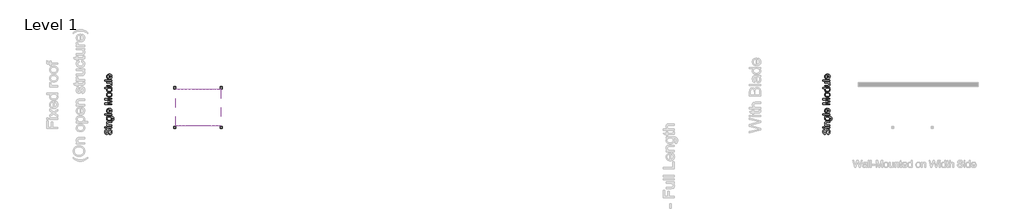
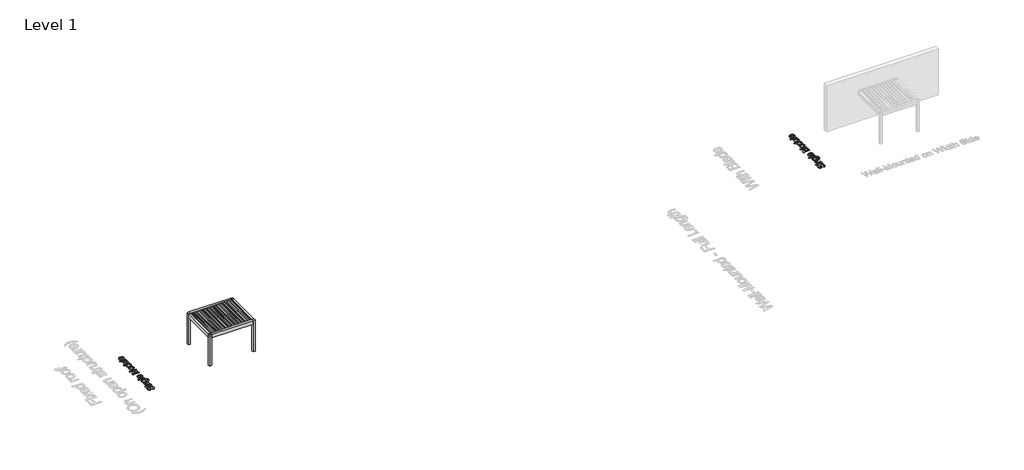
# One storey, part 55 of 80: 4 proxies.
"""IFC4 building model written with IfcOpenShell, lengths in millimetres."""

from ifc_helpers import new_model, si_unit, origin, origin_with_axes, place, context, project, spatial, polyline, outline, extrude, transform, mapped, element, save
from components import generic_models_098ad460, generic_models_9605c008

model = new_model("IFC4")

# Units and contexts
model_context = context("Model", 3, world=origin())
ifc_project = project(units=[si_unit("LENGTHUNIT", "METRE", prefix="MILLI")], contexts=[model_context])

# Site, building, storey
site = spatial("IfcSite", under=ifc_project)
building = spatial("IfcBuilding", under=site)
storey = spatial("IfcBuildingStorey", under=building, Name="Level 1", Elevation=0.0)

# Proxies
placement = place(None, origin())
generic_models_shape = generic_models_098ad460(model_context)
element("IfcBuildingElementProxy", 1, Name="Renson_Amani_Fixed_Roof : Renson_Amani_Fixed_Roof", ObjectType="Renson_Amani_Fixed_Roof : Renson_Amani_Fixed_Roof", at=placement, inside=storey, context=model_context, shape_type="MappedRepresentation", body=[
    mapped(generic_models_shape, transform((79003.165057, 66208.5861401, 0.0), x_axis=(1.0, 0.0, 0.0), y_axis=(0.0, 1.0, 0.0), z_axis=(0.0, 0.0, 1.0))),
])
generic_models_2_shape = generic_models_9605c008(model_context)
element("IfcBuildingElementProxy", 2, Name="Renson_Amani_Patio_Cover : Renson_Amani_Patio_Cover", ObjectType="Renson_Amani_Patio_Cover : Renson_Amani_Patio_Cover", at=placement, inside=storey, context=model_context, shape_type="MappedRepresentation", body=[
    mapped(generic_models_2_shape, transform((80603.165057, 67528.5861401, 0.0), x_axis=(1.0, 0.0, 0.0), y_axis=(0.0, 1.0, 0.0), z_axis=(0.0, 0.0, 1.0))),
])
element("IfcBuildingElementProxy", 3, Name="500mm Arial", ObjectType="500mm Arial", at=placement, inside=storey, context=model_context, shape_type="SweptSolid", body=[
    extrude(outline(polyline([(74240.3333758, 65583.2954326), (74240.3333758, 65646.0806264), (74275.1748664, 65653.2849821), (74303.1798833, 65666.3141361), (74325.4060871, 65686.6396164), (74342.9111388, 65715.7329508), (74354.2694954, 65751.294877), (74358.0556142, 65791.0261325), (74355.1892003, 65826.0055789), (74346.5899587, 65856.631755), (74332.9783249, 65881.4484612), (74315.0747345, 65898.9994981), (74294.519328, 65909.4381497), (74272.952246, 65912.9177002), (74251.936987, 65910.3118694), (74233.7728135, 65902.494377), (74218.2757845, 65886.6141376), (74205.2619589, 65859.8200656), (74181.2883155, 65768.4013898), (74165.4234045, 65708.3906393), (74150.3249143, 65669.9929561), (74129.2023564, 65638.7383149), (74103.6039009, 65616.5887531), (74074.0813708, 65603.3909866), (74041.186589, 65598.991731), (74004.4137179, 65604.4333189), (73970.1240503, 65620.7580824), (73954.5963644, 65632.8943561), (73941.0613727, 65647.536826), (73919.9694716, 65684.3403539), (73907.139587, 65728.5168502), (73902.8629589, 65777.4144987), (73907.3388565, 65830.389506), (73920.7665493, 65876.7426374), (73942.8701258, 65914.8184239), (73957.0719037, 65930.1315119), (73973.3736746, 65942.9613965), (74010.3764719, 65960.7730165), (74051.9777942, 65967.8547449), (74051.9777942, 65905.069551), (74031.9435539, 65900.8695649), (74014.5151444, 65893.5425818), (73999.6925657, 65883.0886018), (73987.4758177, 65869.5076248), (73977.9262143, 65852.546732), (73971.105069, 65831.9530045), (73965.6481527, 65779.8670453), (73971.0437553, 65726.5548129), (73977.7882585, 65706.1756832), (73987.2305631, 65689.9812112), (73998.5812555, 65677.6418359), (74011.0509223, 65668.8279964), (74024.6395635, 65663.5396928), (74039.3471791, 65661.7769249), (74063.4741066, 65666.7739886), (74082.8798818, 65681.7651799), (74091.5097803, 65695.5300979), (74100.2316493, 65717.2044788), (74117.9512987, 65784.2816293), (74134.7819, 65853.504758), (74149.466523, 65895.3819918), (74172.2445498, 65931.1738443), (74200.3568656, 65956.1438347), (74233.496902, 65970.8131292), (74271.3580907, 65975.7028941), (74310.0623423, 65970.0773652), (74346.4673314, 65953.2007787), (74377.7986146, 65925.7629132), (74401.2817487, 65888.4535476), (74415.9510432, 65843.5872726), (74420.8408081, 65793.4786791), (74415.5678328, 65731.9657439), (74408.9766137, 65705.2904671), (74399.748907, 65681.3359843), (74387.8693842, 65659.9566754), (74373.322717, 65641.0069206), (74356.1089053, 65624.4867197), (74336.2279492, 65610.3960729), (74314.323642, 65599.0453805), (74291.0397774, 65590.745043), (74266.3763553, 65585.4950603), (74240.3333758, 65583.2954326)])), origin_with_axes(), (0.0, 0.0, 1.0), 5.0),
    extrude(outline(polyline([(74412.9926588, 66062.0325356), (74044.129645, 66062.0325356), (74044.129645, 66124.8177295), (74412.9926588, 66124.8177295), (74412.9926588, 66062.0325356)])), origin_with_axes(), (0.0, 0.0, 1.0), 5.0),
    extrude(outline(polyline([(73973.4963019, 66062.0325356), (73910.7111081, 66062.0325356), (73910.7111081, 66124.8177295), (73973.4963019, 66124.8177295), (73973.4963019, 66062.0325356)])), origin_with_axes(), (0.0, 0.0, 1.0), 5.0),
    extrude(outline(polyline([(74412.9926588, 66218.9955202), (74044.129645, 66218.9955202), (74044.129645, 66281.7807141), (74095.6331243, 66281.7807141), (74069.6667868, 66303.5930507), (74051.1194029, 66329.7893144), (74039.9909726, 66360.3695053), (74036.2814958, 66395.3336233), (74039.270537, 66426.2816961), (74048.2376606, 66454.6239381), (74062.0638923, 66478.2603563), (74079.6302575, 66495.0909576), (74100.8907712, 66506.5106279), (74125.7994479, 66513.914253), (74186.4999771, 66517.225191), (74412.9926588, 66517.225191), (74412.9926588, 66454.4399971), (74194.961263, 66454.4399971), (74162.495677, 66452.631244), (74139.4110818, 66447.2049846), (74122.8717204, 66437.1955286), (74110.0418358, 66421.6371859), (74101.8104762, 66401.6949161), (74099.0666896, 66378.5336788), (74100.6071955, 66359.4689608), (74105.228713, 66341.7608077), (74112.9312423, 66325.4092194), (74123.7147833, 66310.414196), (74138.8056093, 66297.8870477), (74159.4299937, 66288.9390846), (74185.5879364, 66283.5703067), (74217.2794374, 66281.7807141), (74412.9926588, 66281.7807141), (74412.9926588, 66218.9955202)])), origin_with_axes(), (0.0, 0.0, 1.0), 5.0),
    extrude(outline(polyline([(74444.3852558, 66587.8585341), (74452.233405, 66650.6437279), (74471.8537781, 66657.5721721), (74485.3427846, 66670.999865), (74495.8274214, 66697.3953981), (74499.3223004, 66731.9456488), (74495.3675689, 66768.795162), (74483.5033746, 66796.2023707), (74464.4961382, 66815.2096071), (74439.1122805, 66826.8592036), (74412.1036107, 66830.2621121), (74365.9037635, 66831.1511602), (74386.5051552, 66810.2585286), (74401.220435, 66786.9440071), (74410.0496029, 66761.2075959), (74412.9926588, 66733.0492948), (74409.5667578, 66698.6255035), (74399.2890545, 66668.3173921), (74382.1595491, 66642.1249605), (74358.1782416, 66620.0482086), (74329.4068038, 66602.5316607), (74297.906908, 66590.0198408), (74263.678554, 66582.5127488), (74226.7217419, 66580.0103848), (74176.0306687, 66584.5016109), (74129.4169542, 66597.9752889), (74089.915625, 66619.9562381), (74073.9702398, 66633.9587466), (74060.5617075, 66649.9692776), (74049.9391148, 66667.7310802), (74042.3515487, 66686.9874033), (74037.799009, 66707.7382471), (74036.2814958, 66729.9836115), (74039.7150611, 66759.3451933), (74050.0157569, 66785.9936453), (74067.1835834, 66809.9289676), (74091.2185404, 66831.1511602), (74044.129645, 66831.1511602), (74044.129645, 66893.936354), (74362.5928255, 66893.936354), (74436.1232393, 66889.6443974), (74463.4729664, 66884.2794517), (74484.5457069, 66876.7685276), (74516.6587394, 66854.588309), (74541.2608478, 66822.383306), (74550.3812556, 66802.6977871), (74556.8958326, 66780.8586258), (74562.1074942, 66730.7193755), (74560.2719163, 66699.9590758), (74554.7651827, 66672.3027804), (74545.5872934, 66647.7504893), (74532.7382483, 66626.3022026), (74516.202719, 66608.9772598), (74495.9653772, 66596.7950009), (74472.0262227, 66589.7554256), (74444.3852558, 66587.8585341)]), holes=[polyline([(74222.4297853, 66642.7955787), (74253.4736608, 66644.4702082), (74280.018646, 66649.4940967), (74302.064741, 66657.8672442), (74319.6119457, 66669.5896507), (74332.9974854, 66683.8412459), (74342.5585852, 66699.8019595), (74348.295245, 66717.4717916), (74350.207465, 66736.8507421), (74348.3067413, 66756.0380874), (74342.6045704, 66773.6236132), (74333.1009522, 66789.6073195), (74319.7958867, 66803.9892062), (74302.4211267, 66815.8725611), (74280.7084247, 66824.3606717), (74254.657781, 66829.4535381), (74224.2691953, 66831.1511602), (74195.1490361, 66829.4037207), (74169.8379884, 66824.1614023), (74148.3360522, 66815.4242049), (74130.6432275, 66803.1921286), (74116.8284922, 66788.4998414), (74106.9608241, 66772.3820115), (74101.0402232, 66754.8386388), (74099.0666896, 66735.8697235), (74101.0095664, 66717.2188727), (74106.8381968, 66700.0165573), (74116.5525807, 66684.2627773), (74130.1527182, 66669.9575327), (74147.5772956, 66658.0741778), (74168.7649993, 66649.5860672), (74193.7158292, 66644.4932008), (74222.4297853, 66642.7955787)])]), origin_with_axes(), (0.0, 0.0, 1.0), 5.0),
    extrude(outline(polyline([(74412.9926588, 66988.1141448), (73910.7111081, 66988.1141448), (73910.7111081, 67050.8993387), (74412.9926588, 67050.8993387), (74412.9926588, 66988.1141448)])), origin_with_axes(), (0.0, 0.0, 1.0), 5.0),
    extrude(outline(polyline([(74303.1185696, 67403.33029), (74310.9667188, 67464.8892106), (74335.6224767, 67455.4507381), (74357.3505071, 67442.7089919), (74376.1508099, 67426.663972), (74392.0233851, 67407.3156783), (74404.6310077, 67384.8633803), (74413.6364523, 67359.5063474), (74419.0397191, 67331.2445795), (74420.8408081, 67300.0780767), (74417.7329716, 67261.1209063), (74408.4094623, 67226.4097072), (74392.8702801, 67195.9444795), (74371.115425, 67169.7252231), (74343.7503696, 67148.6409863), (74311.3805861, 67133.5808171), (74274.0060746, 67124.5447156), (74231.6268352, 67121.5326817), (74187.8105567, 67124.5753724), (74149.1906115, 67133.7034444), (74115.7669994, 67148.9168977), (74087.5397204, 67170.2157324), (74065.1142471, 67196.3660109), (74049.0960519, 67226.1337957), (74039.4851348, 67259.5190868), (74036.2814958, 67296.5218841), (74039.4774706, 67332.3328971), (74049.0653951, 67364.718009), (74065.0452693, 67393.6772198), (74087.4170931, 67419.2105295), (74115.5830584, 67440.0533438), (74148.9453568, 67454.9410683), (74187.5039884, 67463.873703), (74231.2589532, 67466.8512479), (74248.181525, 67466.4833659), (74248.181525, 67184.3178756), (74273.2358217, 67187.9545424), (74295.1784499, 67195.1857229), (74314.0094095, 67206.011417), (74329.7287006, 67220.4316248), (74342.1217253, 67237.6492686), (74350.9738858, 67256.8672707), (74356.2851821, 67278.0856312), (74358.0556142, 67301.30435), (74354.7753331, 67334.7202979), (74344.9344897, 67362.8632706), (74327.9199474, 67385.7332679), (74303.1185696, 67403.33029)]), holes=[polyline([(74185.3963312, 67184.3178756), (74185.3963312, 67404.066054), (74152.2256379, 67395.5741113), (74128.4972492, 67378.927451), (74115.6213794, 67361.8056098), (74106.4243295, 67342.3231925), (74100.9060996, 67320.480199), (74099.0666896, 67296.2766294), (74104.9374731, 67253.9548716), (74112.2759525, 67235.5416113), (74122.5498236, 67218.9600968), (74135.2839056, 67205.0457267), (74150.0030175, 67194.6338999), (74166.7071594, 67187.7246161), (74185.3963312, 67184.3178756)])]), origin_with_axes(), (0.0, 0.0, 1.0), 5.0),
    extrude(outline(polyline([(74412.9926588, 67733.6883217), (73910.7111081, 67733.6883217), (73910.7111081, 67841.723001), (74264.7362148, 67944.4847049), (74338.6804958, 67965.208724), (74258.6048482, 67987.6495257), (73910.7111081, 68088.6944471), (73910.7111081, 68196.7291263), (74412.9926588, 68196.7291263), (74412.9926588, 68133.9439325), (73973.4963019, 68133.9439325), (74412.9926588, 68007.7604081), (74412.9926588, 67922.6570399), (73973.4963019, 67796.4735156), (74412.9926588, 67796.4735156), (74412.9926588, 67733.6883217)])), origin_with_axes(), (0.0, 0.0, 1.0), 5.0),
    extrude(outline(polyline([(74228.5611519, 68283.0587678), (74180.790142, 68286.4540121), (74139.6256796, 68296.6397448), (74105.0677647, 68313.6159661), (74077.1163972, 68337.3826758), (74059.2511278, 68361.3103339), (74046.4902211, 68387.7211955), (74038.8336771, 68416.6152605), (74036.2814958, 68447.992529), (74039.3893322, 68482.6309181), (74048.7128415, 68513.9507051), (74064.2520237, 68541.9518898), (74086.0068788, 68566.6344725), (74113.2416427, 68586.7798438), (74145.2205516, 68601.1693948), (74181.9436053, 68609.8031253), (74223.410804, 68612.6810355), (74286.8397913, 68607.5920012), (74312.8751067, 68601.2307084), (74335.1243032, 68592.3248984), (74354.3423053, 68580.9857024), (74371.2840376, 68567.3242512), (74385.9495001, 68551.3405449), (74398.3386927, 68533.0345836), (74415.2152792, 68492.306981), (74420.8408081, 68447.992529), (74417.7444679, 68412.8483022), (74408.4554476, 68381.2372753), (74392.9737469, 68353.1594484), (74371.299366, 68328.6148216), (74343.8001869, 68308.6840481), (74310.8440915, 68294.4477813), (74272.4310798, 68285.9060212), (74228.5611519, 68283.0587678)]), holes=[polyline([(74228.4385246, 68345.8439617), (74258.892256, 68347.660379), (74285.2609644, 68353.1096311), (74307.5446499, 68362.1917178), (74325.7433123, 68374.9066393), (74339.8799444, 68390.3730115), (74349.9775387, 68407.7094505), (74356.0360954, 68426.9159564), (74358.0556142, 68447.992529), (74356.024599, 68468.9618027), (74349.9315535, 68488.0916665), (74339.7764776, 68505.3821203), (74325.5593713, 68520.8331641), (74307.1806, 68533.5480855), (74284.5405289, 68542.6301723), (74257.639158, 68548.0794243), (74226.4764873, 68549.8958417), (74196.9884461, 68548.067928), (74171.3095164, 68542.584187), (74149.4396982, 68533.4446187), (74131.3789915, 68520.6492231), (74117.2423594, 68505.1406977), (74107.1447651, 68487.8617402), (74101.0862085, 68468.8123507), (74099.0666896, 68447.992529), (74101.0785443, 68426.9159564), (74107.1141083, 68407.7094505), (74117.1733816, 68390.3730115), (74131.2563642, 68374.9066393), (74149.4013772, 68362.1917178), (74171.6467416, 68353.1096311), (74197.9924574, 68347.660379), (74228.4385246, 68345.8439617)])]), origin_with_axes(), (0.0, 0.0, 1.0), 5.0),
    extrude(outline(polyline([(74412.9926588, 68910.9107063), (74353.7636576, 68910.9107063), (74383.1099109, 68892.1257319), (74404.0715205, 68869.3706977), (74416.6484862, 68842.6456035), (74420.8408081, 68811.9504496), (74414.7707551, 68771.3608028), (74396.5605964, 68734.2047213), (74367.4825903, 68702.7508107), (74328.8089956, 68679.2676766), (74282.1033106, 68664.6443673), (74228.9290339, 68659.7699309), (74176.4138791, 68664.2611569), (74128.9877586, 68677.734835), (74107.8575365, 68687.8362614), (74089.3484736, 68700.1756367), (74073.4605699, 68714.7529608), (74060.1938255, 68731.5682336), (74042.2595782, 68769.5367212), (74036.2814958, 68811.7051949), (74040.558124, 68842.4233415), (74053.3880085, 68869.5852955), (74073.0543669, 68892.608577), (74097.8404163, 68910.9107063), (73910.7111081, 68910.9107063), (73910.7111081, 68973.6959001), (74412.9926588, 68973.6959001), (74412.9926588, 68910.9107063)]), holes=[polyline([(74228.6837793, 68722.5551247), (74259.1298465, 68724.3255568), (74285.4755623, 68729.6368531), (74307.7209267, 68738.4890137), (74325.8659396, 68750.8820384), (74339.9489223, 68765.6816245), (74350.0081956, 68781.7534691), (74356.0437596, 68799.0975724), (74358.0556142, 68817.7139342), (74356.1357301, 68836.4184344), (74350.3760776, 68853.6590708), (74340.7766568, 68869.4358434), (74327.3374676, 68883.7487523), (74309.9512112, 68895.6321072), (74288.5105887, 68904.1202178), (74263.0156, 68909.2130841), (74233.4662452, 68910.9107063), (74201.069637, 68909.1824273), (74173.2868821, 68903.9975904), (74150.1179807, 68895.3561957), (74131.5629325, 68883.258243), (74117.3458263, 68868.6311016), (74107.1907503, 68852.4021406), (74101.0977048, 68834.5713602), (74099.0666896, 68815.1387602), (74101.0172306, 68796.1545164), (74106.8688536, 68778.8104132), (74116.6215586, 68763.1064505), (74130.2753455, 68749.0426284), (74148.1291186, 68737.4543455), (74170.4817819, 68729.1770007), (74197.3333355, 68724.2105937), (74228.6837793, 68722.5551247)])]), origin_with_axes(), (0.0, 0.0, 1.0), 5.0),
    extrude(outline(polyline([(74412.9926588, 69303.3181678), (74349.5943283, 69303.3181678), (74380.7646632, 69280.6014546), (74403.0291881, 69254.1446078), (74416.3879031, 69223.9476273), (74420.8408081, 69190.0105133), (74417.7138111, 69159.4303224), (74408.3328202, 69130.9654531), (74394.2306771, 69107.0837802), (74376.9402233, 69090.2531789), (74355.9402927, 69078.9254792), (74330.7097192, 69071.5525108), (74272.3391093, 69067.8736909), (74044.129645, 69067.8736909), (74044.129645, 69130.6588847), (74242.7859224, 69130.6588847), (74306.7973896, 69134.460332), (74328.1498737, 69143.6113966), (74344.3826667, 69159.2923667), (74354.6373773, 69180.4609098), (74358.0556142, 69206.0746937), (74354.5607353, 69233.1600056), (74344.0760984, 69258.497878), (74327.5673939, 69279.3905097), (74306.0003119, 69293.1400993), (74276.4624534, 69300.7736507), (74236.0414192, 69303.3181678), (74044.129645, 69303.3181678), (74044.129645, 69366.1033616), (74412.9926588, 69366.1033616), (74412.9926588, 69303.3181678)])), origin_with_axes(), (0.0, 0.0, 1.0), 5.0),
    extrude(outline(polyline([(74412.9926588, 69452.4330032), (73910.7111081, 69452.4330032), (73910.7111081, 69515.218197), (74412.9926588, 69515.218197), (74412.9926588, 69452.4330032)])), origin_with_axes(), (0.0, 0.0, 1.0), 5.0),
    extrude(outline(polyline([(74303.1185696, 69867.6491484), (74310.9667188, 69929.2080689), (74335.6224767, 69919.7695965), (74357.3505071, 69907.0278503), (74376.1508099, 69890.9828304), (74392.0233851, 69871.6345367), (74404.6310077, 69849.1822387), (74413.6364523, 69823.8252057), (74419.0397191, 69795.5634379), (74420.8408081, 69764.3969351), (74417.7329716, 69725.4397646), (74408.4094623, 69690.7285655), (74392.8702801, 69660.2633378), (74371.115425, 69634.0440815), (74343.7503696, 69612.9598446), (74311.3805861, 69597.8996754), (74274.0060746, 69588.8635739), (74231.6268352, 69585.8515401), (74187.8105567, 69588.8942308), (74149.1906115, 69598.0223028), (74115.7669994, 69613.2357561), (74087.5397204, 69634.5345908), (74065.1142471, 69660.6848693), (74049.0960519, 69690.4526541), (74039.4851348, 69723.8379451), (74036.2814958, 69760.8407425), (74039.4774706, 69796.6517554), (74049.0653951, 69829.0368673), (74065.0452693, 69857.9960781), (74087.4170931, 69883.5293879), (74115.5830584, 69904.3722021), (74148.9453568, 69919.2599266), (74187.5039884, 69928.1925613), (74231.2589532, 69931.1701062), (74248.181525, 69930.8022242), (74248.181525, 69648.6367339), (74273.2358217, 69652.2734007), (74295.1784499, 69659.5045812), (74314.0094095, 69670.3302753), (74329.7287006, 69684.7504831), (74342.1217253, 69701.9681269), (74350.9738858, 69721.1861291), (74356.2851821, 69742.4044896), (74358.0556142, 69765.6232084), (74354.7753331, 69799.0391563), (74344.9344897, 69827.1821289), (74327.9199474, 69850.0521263), (74303.1185696, 69867.6491484)]), holes=[polyline([(74185.3963312, 69648.6367339), (74185.3963312, 69868.3849124), (74152.2256379, 69859.8929697), (74128.4972492, 69843.2463094), (74115.6213794, 69826.1244682), (74106.4243295, 69806.6420509), (74100.9060996, 69784.7990574), (74099.0666896, 69760.5954878), (74104.9374731, 69718.2737299), (74112.2759525, 69699.8604697), (74122.5498236, 69683.2789551), (74135.2839056, 69669.3645851), (74150.0030175, 69658.9527582), (74166.7071594, 69652.0434745), (74185.3963312, 69648.6367339)])]), origin_with_axes(), (0.0, 0.0, 1.0), 5.0),
])
element("IfcBuildingElementProxy", 4, Name="500mm Arial", ObjectType="500mm Arial", at=placement, inside=storey, context=model_context, shape_type="SweptSolid", body=[
    extrude(outline(polyline([(125840.3333758, 65583.2954326), (125840.3333758, 65646.0806264), (125875.1748664, 65653.2849821), (125903.1798833, 65666.3141361), (125925.4060871, 65686.6396164), (125942.9111388, 65715.7329508), (125954.2694954, 65751.294877), (125958.0556142, 65791.0261325), (125955.1892003, 65826.0055789), (125946.5899587, 65856.631755), (125932.9783249, 65881.4484612), (125915.0747345, 65898.9994981), (125894.519328, 65909.4381497), (125872.952246, 65912.9177002), (125851.936987, 65910.3118694), (125833.7728135, 65902.494377), (125818.2757845, 65886.6141376), (125805.2619589, 65859.8200656), (125781.2883155, 65768.4013898), (125765.4234045, 65708.3906393), (125750.3249143, 65669.9929561), (125729.2023564, 65638.7383149), (125703.6039009, 65616.5887531), (125674.0813708, 65603.3909866), (125641.186589, 65598.991731), (125604.4137179, 65604.4333189), (125570.1240503, 65620.7580824), (125554.5963644, 65632.8943561), (125541.0613727, 65647.536826), (125519.9694716, 65684.3403539), (125507.139587, 65728.5168502), (125502.8629589, 65777.4144987), (125507.3388565, 65830.389506), (125520.7665493, 65876.7426374), (125542.8701258, 65914.8184239), (125557.0719037, 65930.1315119), (125573.3736746, 65942.9613965), (125610.3764719, 65960.7730165), (125651.9777942, 65967.8547449), (125651.9777942, 65905.069551), (125631.9435539, 65900.8695649), (125614.5151444, 65893.5425818), (125599.6925657, 65883.0886018), (125587.4758177, 65869.5076248), (125577.9262143, 65852.546732), (125571.105069, 65831.9530045), (125565.6481527, 65779.8670453), (125571.0437553, 65726.5548129), (125577.7882585, 65706.1756832), (125587.2305631, 65689.9812112), (125598.5812555, 65677.6418359), (125611.0509223, 65668.8279964), (125624.6395635, 65663.5396928), (125639.3471791, 65661.7769249), (125663.4741066, 65666.7739886), (125682.8798818, 65681.7651799), (125691.5097803, 65695.5300979), (125700.2316493, 65717.2044788), (125717.9512987, 65784.2816293), (125734.7819, 65853.504758), (125749.466523, 65895.3819918), (125772.2445498, 65931.1738443), (125800.3568656, 65956.1438347), (125833.496902, 65970.8131292), (125871.3580907, 65975.7028941), (125910.0623423, 65970.0773652), (125946.4673314, 65953.2007787), (125977.7986146, 65925.7629132), (126001.2817487, 65888.4535476), (126015.9510432, 65843.5872726), (126020.8408081, 65793.4786791), (126015.5678328, 65731.9657439), (126008.9766137, 65705.2904671), (125999.748907, 65681.3359843), (125987.8693842, 65659.9566754), (125973.322717, 65641.0069206), (125956.1089053, 65624.4867197), (125936.2279492, 65610.3960729), (125914.323642, 65599.0453805), (125891.0397774, 65590.745043), (125866.3763553, 65585.4950603), (125840.3333758, 65583.2954326)])), origin_with_axes(), (0.0, 0.0, 1.0), 5.0),
    extrude(outline(polyline([(126012.9926588, 66062.0325356), (125644.129645, 66062.0325356), (125644.129645, 66124.8177295), (126012.9926588, 66124.8177295), (126012.9926588, 66062.0325356)])), origin_with_axes(), (0.0, 0.0, 1.0), 5.0),
    extrude(outline(polyline([(125573.4963019, 66062.0325356), (125510.7111081, 66062.0325356), (125510.7111081, 66124.8177295), (125573.4963019, 66124.8177295), (125573.4963019, 66062.0325356)])), origin_with_axes(), (0.0, 0.0, 1.0), 5.0),
    extrude(outline(polyline([(126012.9926588, 66218.9955202), (125644.129645, 66218.9955202), (125644.129645, 66281.7807141), (125695.6331243, 66281.7807141), (125669.6667868, 66303.5930507), (125651.1194029, 66329.7893144), (125639.9909726, 66360.3695053), (125636.2814958, 66395.3336233), (125639.270537, 66426.2816961), (125648.2376606, 66454.6239381), (125662.0638923, 66478.2603563), (125679.6302575, 66495.0909576), (125700.8907712, 66506.5106279), (125725.7994479, 66513.914253), (125786.4999771, 66517.225191), (126012.9926588, 66517.225191), (126012.9926588, 66454.4399971), (125794.961263, 66454.4399971), (125762.495677, 66452.631244), (125739.4110818, 66447.2049846), (125722.8717204, 66437.1955286), (125710.0418358, 66421.6371859), (125701.8104762, 66401.6949161), (125699.0666896, 66378.5336788), (125700.6071955, 66359.4689608), (125705.228713, 66341.7608077), (125712.9312423, 66325.4092194), (125723.7147833, 66310.414196), (125738.8056093, 66297.8870477), (125759.4299937, 66288.9390846), (125785.5879364, 66283.5703067), (125817.2794374, 66281.7807141), (126012.9926588, 66281.7807141), (126012.9926588, 66218.9955202)])), origin_with_axes(), (0.0, 0.0, 1.0), 5.0),
    extrude(outline(polyline([(126044.3852558, 66587.8585341), (126052.233405, 66650.6437279), (126071.8537781, 66657.5721721), (126085.3427846, 66670.999865), (126095.8274214, 66697.3953981), (126099.3223004, 66731.9456488), (126095.3675689, 66768.795162), (126083.5033746, 66796.2023707), (126064.4961382, 66815.2096071), (126039.1122805, 66826.8592036), (126012.1036107, 66830.2621121), (125965.9037635, 66831.1511602), (125986.5051552, 66810.2585286), (126001.220435, 66786.9440071), (126010.0496029, 66761.2075959), (126012.9926588, 66733.0492948), (126009.5667578, 66698.6255035), (125999.2890545, 66668.3173921), (125982.1595491, 66642.1249605), (125958.1782416, 66620.0482086), (125929.4068038, 66602.5316607), (125897.906908, 66590.0198408), (125863.678554, 66582.5127488), (125826.7217419, 66580.0103848), (125776.0306687, 66584.5016109), (125729.4169542, 66597.9752889), (125689.915625, 66619.9562381), (125673.9702398, 66633.9587466), (125660.5617075, 66649.9692776), (125649.9391148, 66667.7310802), (125642.3515487, 66686.9874033), (125637.799009, 66707.7382471), (125636.2814958, 66729.9836115), (125639.7150611, 66759.3451933), (125650.0157569, 66785.9936453), (125667.1835834, 66809.9289676), (125691.2185404, 66831.1511602), (125644.129645, 66831.1511602), (125644.129645, 66893.936354), (125962.5928255, 66893.936354), (126036.1232393, 66889.6443974), (126063.4729664, 66884.2794517), (126084.5457069, 66876.7685276), (126116.6587394, 66854.588309), (126141.2608478, 66822.383306), (126150.3812556, 66802.6977871), (126156.8958326, 66780.8586258), (126162.1074942, 66730.7193755), (126160.2719163, 66699.9590758), (126154.7651827, 66672.3027804), (126145.5872934, 66647.7504893), (126132.7382483, 66626.3022026), (126116.202719, 66608.9772598), (126095.9653772, 66596.7950009), (126072.0262227, 66589.7554256), (126044.3852558, 66587.8585341)]), holes=[polyline([(125822.4297853, 66642.7955787), (125853.4736608, 66644.4702082), (125880.018646, 66649.4940967), (125902.064741, 66657.8672442), (125919.6119457, 66669.5896507), (125932.9974854, 66683.8412459), (125942.5585852, 66699.8019595), (125948.295245, 66717.4717916), (125950.207465, 66736.8507421), (125948.3067413, 66756.0380874), (125942.6045704, 66773.6236132), (125933.1009522, 66789.6073195), (125919.7958867, 66803.9892062), (125902.4211267, 66815.8725611), (125880.7084247, 66824.3606717), (125854.657781, 66829.4535381), (125824.2691953, 66831.1511602), (125795.1490361, 66829.4037207), (125769.8379884, 66824.1614023), (125748.3360522, 66815.4242049), (125730.6432275, 66803.1921286), (125716.8284922, 66788.4998414), (125706.9608241, 66772.3820115), (125701.0402232, 66754.8386388), (125699.0666896, 66735.8697235), (125701.0095664, 66717.2188727), (125706.8381968, 66700.0165573), (125716.5525807, 66684.2627773), (125730.1527182, 66669.9575327), (125747.5772956, 66658.0741778), (125768.7649993, 66649.5860672), (125793.7158292, 66644.4932008), (125822.4297853, 66642.7955787)])]), origin_with_axes(), (0.0, 0.0, 1.0), 5.0),
    extrude(outline(polyline([(126012.9926588, 66988.1141448), (125510.7111081, 66988.1141448), (125510.7111081, 67050.8993387), (126012.9926588, 67050.8993387), (126012.9926588, 66988.1141448)])), origin_with_axes(), (0.0, 0.0, 1.0), 5.0),
    extrude(outline(polyline([(125903.1185696, 67403.33029), (125910.9667188, 67464.8892106), (125935.6224767, 67455.4507381), (125957.3505071, 67442.7089919), (125976.1508099, 67426.663972), (125992.0233851, 67407.3156783), (126004.6310077, 67384.8633803), (126013.6364523, 67359.5063474), (126019.0397191, 67331.2445795), (126020.8408081, 67300.0780767), (126017.7329716, 67261.1209063), (126008.4094623, 67226.4097072), (125992.8702801, 67195.9444795), (125971.115425, 67169.7252231), (125943.7503696, 67148.6409863), (125911.3805861, 67133.5808171), (125874.0060746, 67124.5447156), (125831.6268352, 67121.5326817), (125787.8105567, 67124.5753724), (125749.1906115, 67133.7034444), (125715.7669994, 67148.9168977), (125687.5397204, 67170.2157324), (125665.1142471, 67196.3660109), (125649.0960519, 67226.1337957), (125639.4851348, 67259.5190868), (125636.2814958, 67296.5218841), (125639.4774706, 67332.3328971), (125649.0653951, 67364.718009), (125665.0452693, 67393.6772198), (125687.4170931, 67419.2105295), (125715.5830584, 67440.0533438), (125748.9453568, 67454.9410683), (125787.5039884, 67463.873703), (125831.2589532, 67466.8512479), (125848.181525, 67466.4833659), (125848.181525, 67184.3178756), (125873.2358217, 67187.9545424), (125895.1784499, 67195.1857229), (125914.0094095, 67206.011417), (125929.7287006, 67220.4316248), (125942.1217253, 67237.6492686), (125950.9738858, 67256.8672707), (125956.2851821, 67278.0856312), (125958.0556142, 67301.30435), (125954.7753331, 67334.7202979), (125944.9344897, 67362.8632706), (125927.9199474, 67385.7332679), (125903.1185696, 67403.33029)]), holes=[polyline([(125785.3963312, 67184.3178756), (125785.3963312, 67404.066054), (125752.2256379, 67395.5741113), (125728.4972492, 67378.927451), (125715.6213794, 67361.8056098), (125706.4243295, 67342.3231925), (125700.9060996, 67320.480199), (125699.0666896, 67296.2766294), (125704.9374731, 67253.9548716), (125712.2759525, 67235.5416113), (125722.5498236, 67218.9600968), (125735.2839056, 67205.0457267), (125750.0030175, 67194.6338999), (125766.7071594, 67187.7246161), (125785.3963312, 67184.3178756)])]), origin_with_axes(), (0.0, 0.0, 1.0), 5.0),
    extrude(outline(polyline([(126012.9926588, 67733.6883217), (125510.7111081, 67733.6883217), (125510.7111081, 67841.723001), (125864.7362148, 67944.4847049), (125938.6804958, 67965.208724), (125858.6048482, 67987.6495257), (125510.7111081, 68088.6944471), (125510.7111081, 68196.7291263), (126012.9926588, 68196.7291263), (126012.9926588, 68133.9439325), (125573.4963019, 68133.9439325), (126012.9926588, 68007.7604081), (126012.9926588, 67922.6570399), (125573.4963019, 67796.4735156), (126012.9926588, 67796.4735156), (126012.9926588, 67733.6883217)])), origin_with_axes(), (0.0, 0.0, 1.0), 5.0),
    extrude(outline(polyline([(125828.5611519, 68283.0587678), (125780.790142, 68286.4540121), (125739.6256796, 68296.6397448), (125705.0677647, 68313.6159661), (125677.1163972, 68337.3826758), (125659.2511278, 68361.3103339), (125646.4902211, 68387.7211955), (125638.8336771, 68416.6152605), (125636.2814958, 68447.992529), (125639.3893322, 68482.6309181), (125648.7128415, 68513.9507051), (125664.2520237, 68541.9518898), (125686.0068788, 68566.6344725), (125713.2416427, 68586.7798438), (125745.2205516, 68601.1693947), (125781.9436053, 68609.8031253), (125823.410804, 68612.6810355), (125886.8397913, 68607.5920012), (125912.8751067, 68601.2307084), (125935.1243032, 68592.3248984), (125954.3423053, 68580.9857024), (125971.2840376, 68567.3242512), (125985.9495001, 68551.3405449), (125998.3386927, 68533.0345836), (126015.2152792, 68492.306981), (126020.8408081, 68447.992529), (126017.7444679, 68412.8483022), (126008.4554476, 68381.2372753), (125992.9737469, 68353.1594484), (125971.299366, 68328.6148216), (125943.8001869, 68308.6840481), (125910.8440915, 68294.4477813), (125872.4310798, 68285.9060212), (125828.5611519, 68283.0587678)]), holes=[polyline([(125828.4385246, 68345.8439617), (125858.892256, 68347.660379), (125885.2609644, 68353.1096311), (125907.5446499, 68362.1917178), (125925.7433123, 68374.9066393), (125939.8799444, 68390.3730115), (125949.9775387, 68407.7094505), (125956.0360954, 68426.9159564), (125958.0556142, 68447.992529), (125956.024599, 68468.9618027), (125949.9315535, 68488.0916665), (125939.7764776, 68505.3821203), (125925.5593713, 68520.8331641), (125907.1806, 68533.5480855), (125884.5405289, 68542.6301723), (125857.639158, 68548.0794243), (125826.4764873, 68549.8958417), (125796.9884461, 68548.067928), (125771.3095164, 68542.584187), (125749.4396982, 68533.4446187), (125731.3789915, 68520.6492231), (125717.2423594, 68505.1406977), (125707.1447651, 68487.8617402), (125701.0862085, 68468.8123507), (125699.0666896, 68447.992529), (125701.0785443, 68426.9159564), (125707.1141083, 68407.7094505), (125717.1733816, 68390.3730115), (125731.2563642, 68374.9066393), (125749.4013772, 68362.1917178), (125771.6467416, 68353.1096311), (125797.9924574, 68347.660379), (125828.4385246, 68345.8439617)])]), origin_with_axes(), (0.0, 0.0, 1.0), 5.0),
    extrude(outline(polyline([(126012.9926588, 68910.9107063), (125953.7636576, 68910.9107063), (125983.1099109, 68892.1257319), (126004.0715205, 68869.3706977), (126016.6484862, 68842.6456035), (126020.8408081, 68811.9504496), (126014.7707551, 68771.3608028), (125996.5605964, 68734.2047213), (125967.4825903, 68702.7508107), (125928.8089956, 68679.2676766), (125882.1033106, 68664.6443673), (125828.9290339, 68659.7699309), (125776.4138791, 68664.2611569), (125728.9877586, 68677.734835), (125707.8575365, 68687.8362614), (125689.3484736, 68700.1756367), (125673.4605699, 68714.7529608), (125660.1938255, 68731.5682336), (125642.2595782, 68769.5367212), (125636.2814958, 68811.7051949), (125640.558124, 68842.4233415), (125653.3880085, 68869.5852955), (125673.0543669, 68892.608577), (125697.8404163, 68910.9107063), (125510.7111081, 68910.9107063), (125510.7111081, 68973.6959001), (126012.9926588, 68973.6959001), (126012.9926588, 68910.9107063)]), holes=[polyline([(125828.6837793, 68722.5551247), (125859.1298465, 68724.3255568), (125885.4755623, 68729.6368531), (125907.7209267, 68738.4890137), (125925.8659396, 68750.8820384), (125939.9489223, 68765.6816245), (125950.0081956, 68781.7534691), (125956.0437596, 68799.0975724), (125958.0556142, 68817.7139342), (125956.1357301, 68836.4184344), (125950.3760776, 68853.6590708), (125940.7766568, 68869.4358434), (125927.3374676, 68883.7487523), (125909.9512112, 68895.6321072), (125888.5105887, 68904.1202178), (125863.0156, 68909.2130841), (125833.4662452, 68910.9107063), (125801.069637, 68909.1824273), (125773.2868821, 68903.9975904), (125750.1179807, 68895.3561957), (125731.5629325, 68883.258243), (125717.3458263, 68868.6311016), (125707.1907503, 68852.4021406), (125701.0977048, 68834.5713602), (125699.0666896, 68815.1387602), (125701.0172306, 68796.1545164), (125706.8688536, 68778.8104132), (125716.6215586, 68763.1064505), (125730.2753455, 68749.0426284), (125748.1291186, 68737.4543455), (125770.4817819, 68729.1770007), (125797.3333355, 68724.2105937), (125828.6837793, 68722.5551247)])]), origin_with_axes(), (0.0, 0.0, 1.0), 5.0),
    extrude(outline(polyline([(126012.9926588, 69303.3181678), (125949.5943283, 69303.3181678), (125980.7646632, 69280.6014546), (126003.0291881, 69254.1446078), (126016.3879031, 69223.9476273), (126020.8408081, 69190.0105133), (126017.7138111, 69159.4303224), (126008.3328202, 69130.9654531), (125994.2306771, 69107.0837802), (125976.9402233, 69090.2531789), (125955.9402927, 69078.9254792), (125930.7097192, 69071.5525108), (125872.3391093, 69067.8736909), (125644.129645, 69067.8736909), (125644.129645, 69130.6588847), (125842.7859224, 69130.6588847), (125906.7973896, 69134.460332), (125928.1498737, 69143.6113966), (125944.3826667, 69159.2923667), (125954.6373773, 69180.4609098), (125958.0556142, 69206.0746937), (125954.5607353, 69233.1600056), (125944.0760984, 69258.497878), (125927.5673939, 69279.3905097), (125906.0003119, 69293.1400993), (125876.4624534, 69300.7736507), (125836.0414192, 69303.3181678), (125644.129645, 69303.3181678), (125644.129645, 69366.1033616), (126012.9926588, 69366.1033616), (126012.9926588, 69303.3181678)])), origin_with_axes(), (0.0, 0.0, 1.0), 5.0),
    extrude(outline(polyline([(126012.9926588, 69452.4330032), (125510.7111081, 69452.4330032), (125510.7111081, 69515.218197), (126012.9926588, 69515.218197), (126012.9926588, 69452.4330032)])), origin_with_axes(), (0.0, 0.0, 1.0), 5.0),
    extrude(outline(polyline([(125903.1185696, 69867.6491484), (125910.9667188, 69929.2080689), (125935.6224767, 69919.7695965), (125957.3505071, 69907.0278503), (125976.1508099, 69890.9828304), (125992.0233851, 69871.6345367), (126004.6310077, 69849.1822387), (126013.6364523, 69823.8252057), (126019.0397191, 69795.5634379), (126020.8408081, 69764.3969351), (126017.7329716, 69725.4397646), (126008.4094623, 69690.7285655), (125992.8702801, 69660.2633378), (125971.115425, 69634.0440815), (125943.7503696, 69612.9598446), (125911.3805861, 69597.8996754), (125874.0060746, 69588.8635739), (125831.6268352, 69585.8515401), (125787.8105567, 69588.8942308), (125749.1906115, 69598.0223028), (125715.7669994, 69613.2357561), (125687.5397204, 69634.5345908), (125665.1142471, 69660.6848693), (125649.0960519, 69690.4526541), (125639.4851348, 69723.8379451), (125636.2814958, 69760.8407425), (125639.4774706, 69796.6517554), (125649.0653951, 69829.0368673), (125665.0452693, 69857.9960781), (125687.4170931, 69883.5293879), (125715.5830584, 69904.3722021), (125748.9453568, 69919.2599266), (125787.5039884, 69928.1925613), (125831.2589532, 69931.1701062), (125848.181525, 69930.8022242), (125848.181525, 69648.6367339), (125873.2358217, 69652.2734007), (125895.1784499, 69659.5045812), (125914.0094095, 69670.3302753), (125929.7287006, 69684.7504831), (125942.1217253, 69701.9681269), (125950.9738858, 69721.1861291), (125956.2851821, 69742.4044896), (125958.0556142, 69765.6232084), (125954.7753331, 69799.0391563), (125944.9344897, 69827.1821289), (125927.9199474, 69850.0521263), (125903.1185696, 69867.6491484)]), holes=[polyline([(125785.3963312, 69648.6367339), (125785.3963312, 69868.3849124), (125752.2256379, 69859.8929697), (125728.4972492, 69843.2463094), (125715.6213794, 69826.1244682), (125706.4243295, 69806.6420509), (125700.9060996, 69784.7990574), (125699.0666896, 69760.5954878), (125704.9374731, 69718.2737299), (125712.2759525, 69699.8604697), (125722.5498236, 69683.2789551), (125735.2839056, 69669.3645851), (125750.0030175, 69658.9527582), (125766.7071594, 69652.0434745), (125785.3963312, 69648.6367339)])]), origin_with_axes(), (0.0, 0.0, 1.0), 5.0),
])

save(model, "model.ifc")
